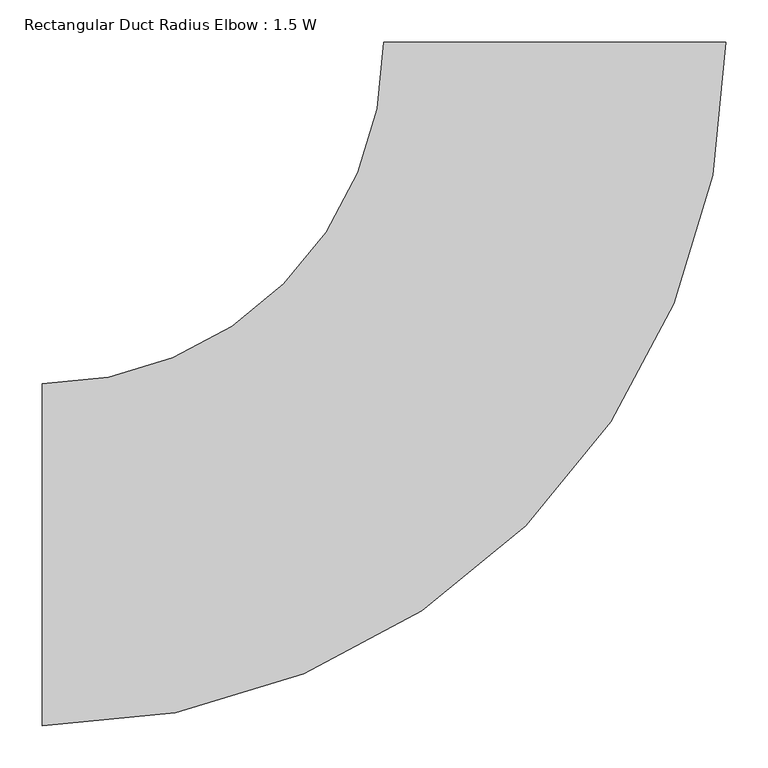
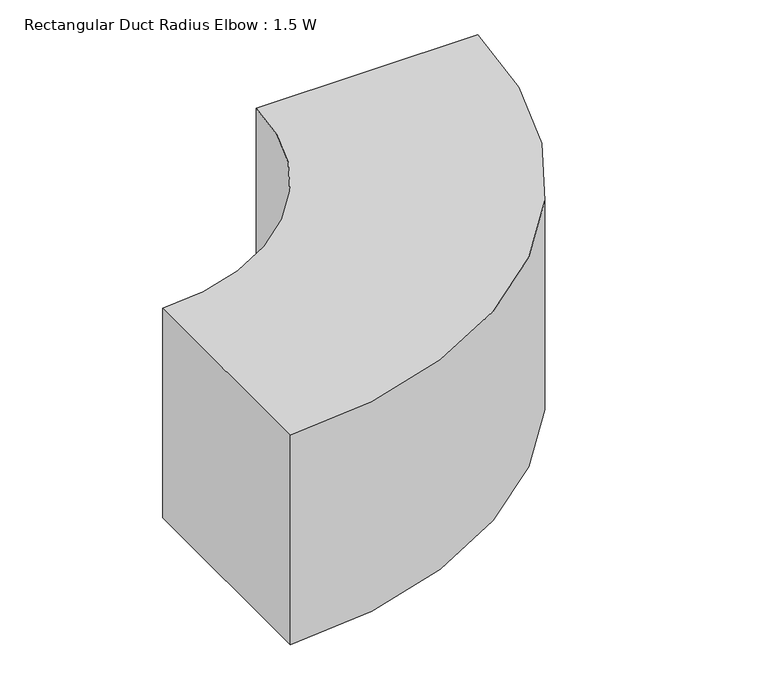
"""IFC4 building model written with IfcOpenShell, lengths in millimetres: duct fitting geometry, Rectangular Duct Radius Elbow : 1.5 W."""

from ifc_helpers import new_model, si_unit, point, frame, frame_2d, origin, place, context, project, spatial, polyline, circle_curve, trimmed, segment, composite_curve, outline, extrude, source, transform, mapped, element, save


def rectangular_duct_radius_elbow_1_5_w_27b67147(model_context):
    return source(origin(), model_context, "Body", "SweptSolid", [
        extrude(outline(composite_curve([segment(trimmed(circle_curve(frame_2d((-609.6, 609.6)), 812.8), [point((203.2, 609.6))], [point((-609.6, -203.2))], False, "CARTESIAN"), True, "CONTINUOUS"), segment(polyline([(-609.6, -203.2), (-609.6, 203.2)]), True, "CONTINUOUS"), segment(trimmed(circle_curve(frame_2d((-609.6, 609.6)), 406.4), [point((-609.6, 203.2))], [point((-203.2, 609.6))], True, "CARTESIAN"), True, "CONTINUOUS"), segment(polyline([(-203.2, 609.6), (203.2, 609.6)]), True, "CONTINUOUS")], self_intersect=False)), frame((0.0, 0.0, -203.2), z_axis=(0.0, 0.0, 1.0), x_axis=(1.0, 0.0, 0.0)), (0.0, 0.0, 1.0), 406.4),
        extrude(outline(composite_curve([segment(trimmed(circle_curve(frame_2d((-609.6, 609.6)), 812.8), [point((203.2, 609.6))], [point((-609.6, -203.2))], False, "CARTESIAN"), True, "CONTINUOUS"), segment(polyline([(-609.6, -203.2), (-609.6, 203.2)]), True, "CONTINUOUS"), segment(trimmed(circle_curve(frame_2d((-609.6, 609.6)), 406.4), [point((-609.6, 203.2))], [point((-203.2, 609.6))], True, "CARTESIAN"), True, "CONTINUOUS"), segment(polyline([(-203.2, 609.6), (203.2, 609.6)]), True, "CONTINUOUS")], self_intersect=False)), frame((0.0, 0.0, -203.2), z_axis=(0.0, 0.0, 1.0), x_axis=(1.0, 0.0, 0.0)), (0.0, 0.0, 1.0), 406.4),
        extrude(outline(composite_curve([segment(trimmed(circle_curve(frame_2d((-609.6, 609.6)), 812.8), [point((203.2, 609.6))], [point((-609.6, -203.2))], False, "CARTESIAN"), True, "CONTINUOUS"), segment(polyline([(-609.6, -203.2), (-609.6, 203.2)]), True, "CONTINUOUS"), segment(trimmed(circle_curve(frame_2d((-609.6, 609.6)), 406.4), [point((-609.6, 203.2))], [point((-203.2, 609.6))], True, "CARTESIAN"), True, "CONTINUOUS"), segment(polyline([(-203.2, 609.6), (203.2, 609.6)]), True, "CONTINUOUS")], self_intersect=False)), frame((0.0, 0.0, -203.2), z_axis=(0.0, 0.0, 1.0), x_axis=(1.0, 0.0, 0.0)), (0.0, 0.0, 1.0), 406.4),
    ])


if __name__ == "__main__":
    model = new_model("IFC4")
    model_context = context("Model", 3, world=origin())
    ifc_project = project(units=[si_unit("LENGTHUNIT", "METRE", prefix="MILLI")], contexts=[model_context])
    site = spatial("IfcSite", under=ifc_project)
    building = spatial("IfcBuilding", under=site)
    placement = place(None, origin())
    rectangular_duct_radius_elbow_1_5_w_shape = rectangular_duct_radius_elbow_1_5_w_27b67147(model_context)
    element("IfcDuctFitting", 1, ObjectType="Rectangular Duct Radius Elbow : 1.5 W", at=placement, inside=building, context=model_context, shape_type="MappedRepresentation", body=[
        mapped(rectangular_duct_radius_elbow_1_5_w_shape, transform((0.0, 0.0, 0.0), x_axis=(1.0, 0.0, 0.0), y_axis=(0.0, 1.0, 0.0), z_axis=(0.0, 0.0, 1.0))),
    ])
    save(model, "model.ifc")
